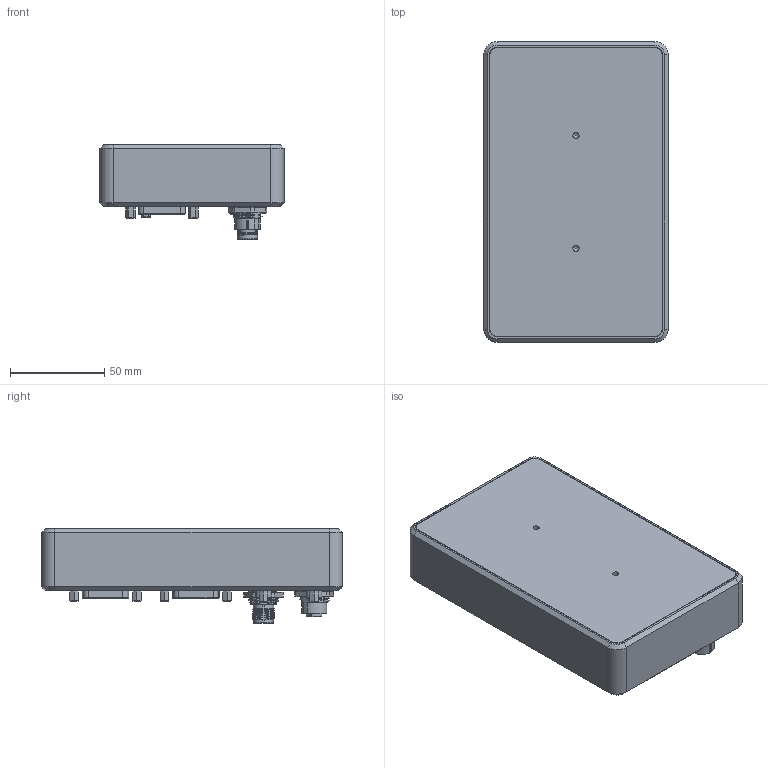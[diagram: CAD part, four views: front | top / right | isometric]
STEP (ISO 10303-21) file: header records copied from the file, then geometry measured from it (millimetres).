
FILE_DESCRIPTION(/* description */ (''),/* implementation_level */ '2;1');
FILE_NAME(/* name */ 'I:\Users\Alle\Inventor\_Projekte\254_B40.0 Irinos\Vereinfachte Modelle\B40.0 INCbox_EPI_vereinfacht.stp',/* time_stamp */ '2022-11-09T09:27:26+01:00',/* author */ ('PE'),/* organization */ (''),/* preprocessor_version */ 'ST-DEVELOPER v18.1',/* originating_system */ 'Autodesk Inventor 2021',/* authorisation */ '');
FILE_SCHEMA (('AUTOMOTIVE_DESIGN { 1 0 10303 214 3 1 1 }'));
Products named in the file (1): B40.0 INCbox_EPI_vereinfacht
Bounding box: 98 x 160 x 50.3 mm (x, y, z)
Volume: 521042.2 mm3; surface area: 64031.1 mm2
Topology: 1 solids, 1 shells, 1762 faces, 4520 edges, 2886 vertices
Faces by surface type: plane 764, cylinder 481, cone 193, bspline 188, torus 130, sphere 6
Full cylindrical faces by diameter (mm): 1 x5, 1.2 x90, 1.36 x1, 1.5 x4, 2.459 x15, 2.5 x9, 3 x4, 3.242 x2, 3.3 x4, 3.4 x3, 8.9 x1, 10.75 x1, 11.13 x1, 12.2 x1, 14.6 x2, 16.1 x2
Entity records: 82117 total; most frequent: CARTESIAN_POINT 38083, ORIENTED_EDGE 9012, DIRECTION 8486, EDGE_CURVE 4506, AXIS2_PLACEMENT_3D 3113, VERTEX_POINT 2886, LINE 2260, VECTOR 2260
